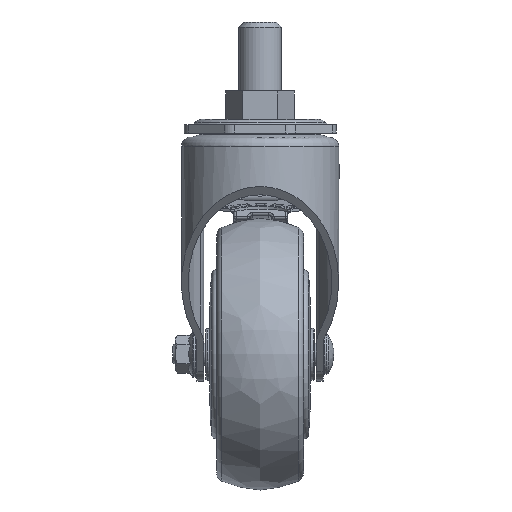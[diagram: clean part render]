
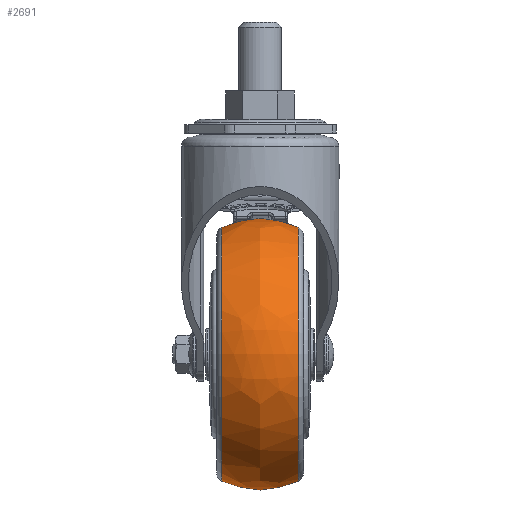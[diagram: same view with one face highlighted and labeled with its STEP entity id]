
A CAD part, left-side view. The second image highlights one B-rep face of the part: STEP entity #2691.
In plain terms, the highlighted free-form (B-spline) face has degree [2, 2] with [3, 9] control points.
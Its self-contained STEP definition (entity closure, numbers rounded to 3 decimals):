
#2619=CARTESIAN_POINT('',(-27.388,47.64,-81.75));
#2620=VERTEX_POINT('',#2619);
#2621=CARTESIAN_POINT('',(19.37,47.64,-81.75));
#2622=DIRECTION('',(0.0,-1.0,0.0));
#2623=DIRECTION('',(-1.0,0.0,0.));
#2624=AXIS2_PLACEMENT_3D('',#2621,#2622,#2623);
#2625=CIRCLE('',#2624,46.758);
#2626=EDGE_CURVE('',#2620,#2620,#2625,.T.);
#2642=CARTESIAN_POINT('',(19.37,47.64,-34.992));
#2643=CARTESIAN_POINT('',(19.37,61.675,-28.142));
#2644=CARTESIAN_POINT('',(19.37,75.71,-34.992));
#2645=CARTESIAN_POINT('',(-27.388,47.64,-34.992));
#2646=CARTESIAN_POINT('',(-34.238,61.675,-28.142));
#2647=CARTESIAN_POINT('',(-27.388,75.71,-34.992));
#2648=CARTESIAN_POINT('',(-27.388,47.64,-81.75));
#2649=CARTESIAN_POINT('',(-34.238,61.675,-81.75));
#2650=CARTESIAN_POINT('',(-27.388,75.71,-81.75));
#2651=CARTESIAN_POINT('',(-27.388,47.64,-128.508));
#2652=CARTESIAN_POINT('',(-34.238,61.675,-135.358));
#2653=CARTESIAN_POINT('',(-27.388,75.71,-128.508));
#2654=CARTESIAN_POINT('',(19.37,47.64,-128.508));
#2655=CARTESIAN_POINT('',(19.37,61.675,-135.358));
#2656=CARTESIAN_POINT('',(19.37,75.71,-128.508));
#2657=CARTESIAN_POINT('',(66.128,47.64,-128.508));
#2658=CARTESIAN_POINT('',(72.977,61.675,-135.358));
#2659=CARTESIAN_POINT('',(66.128,75.71,-128.508));
#2660=CARTESIAN_POINT('',(66.128,47.64,-81.75));
#2661=CARTESIAN_POINT('',(72.977,61.675,-81.75));
#2662=CARTESIAN_POINT('',(66.128,75.71,-81.75));
#2663=CARTESIAN_POINT('',(66.128,47.64,-34.992));
#2664=CARTESIAN_POINT('',(72.977,61.675,-28.142));
#2665=CARTESIAN_POINT('',(66.128,75.71,-34.992));
#2666=CARTESIAN_POINT('',(19.37,47.64,-34.992));
#2667=CARTESIAN_POINT('',(19.37,61.675,-28.142));
#2668=CARTESIAN_POINT('',(19.37,75.71,-34.992));
#2676=(BOUNDED_SURFACE()B_SPLINE_SURFACE(2,2,((#2642,#2645,#2648,#2651,#2654,#2657,#2660,#2663,#2666),(#2643,#2646,#2649,#2652,#2655,#2658,#2661,#2664,#2667),(#2644,#2647,#2650,#2653,#2656,#2659,#2662,#2665,#2668)),.UNSPECIFIED.,.F.,.T.,.U.)B_SPLINE_SURFACE_WITH_KNOTS((3,3),(3,2,2,2,3),(-0.454,0.454),(0.0,1.571,3.142,4.712,6.283),.UNSPECIFIED.)GEOMETRIC_REPRESENTATION_ITEM()RATIONAL_B_SPLINE_SURFACE(((1.0,0.707,1.0,0.707,1.0,0.707,1.0,0.707,1.0),(0.899,0.635,0.899,0.635,0.899,0.635,0.899,0.635,0.899),(1.0,0.707,1.0,0.707,1.0,0.707,1.0,0.707,1.0)))REPRESENTATION_ITEM('')SURFACE());
#2677=CARTESIAN_POINT('',(-27.388,75.71,-81.75));
#2678=VERTEX_POINT('',#2677);
#2679=CARTESIAN_POINT('',(19.37,75.71,-81.75));
#2680=DIRECTION('',(0.0,-1.0,0.0));
#2681=DIRECTION('',(-1.0,0.0,0.));
#2682=AXIS2_PLACEMENT_3D('',#2679,#2680,#2681);
#2683=CIRCLE('',#2682,46.758);
#2684=EDGE_CURVE('',#2678,#2678,#2683,.T.);
#2685=ORIENTED_EDGE('',*,*,#2684,.T.);
#2686=EDGE_LOOP('',(#2685));
#2687=FACE_OUTER_BOUND('',#2686,.T.);
#2688=ORIENTED_EDGE('',*,*,#2626,.F.);
#2689=EDGE_LOOP('',(#2688));
#2690=FACE_BOUND('',#2689,.T.);
#2691=ADVANCED_FACE('',(#2687,#2690),#2676,.T.);
